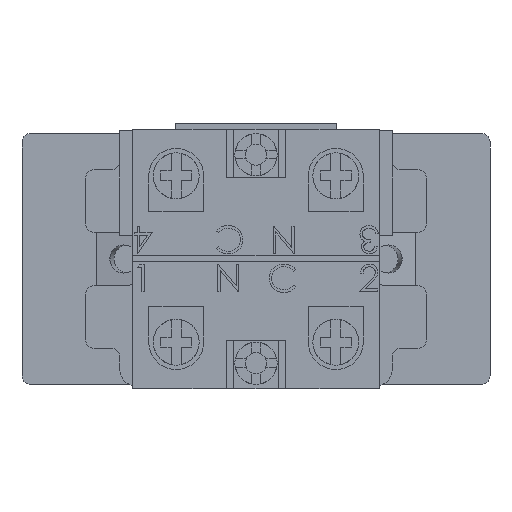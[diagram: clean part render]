
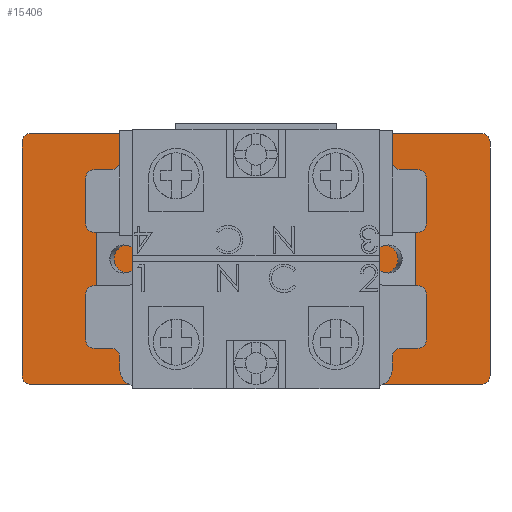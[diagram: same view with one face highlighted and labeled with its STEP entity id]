
A CAD part, front view. The second image highlights one B-rep face of the part: STEP entity #15406.
In plain terms, the highlighted planar face has unit normal (0, -1, 0).
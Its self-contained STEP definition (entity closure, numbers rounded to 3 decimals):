
#313 = AXIS2_PLACEMENT_3D ( 'NONE', #24561, #24577, #24578 ) ;
#315 = AXIS2_PLACEMENT_3D ( 'NONE', #24558, #24559, #24560 ) ;
#2363 = CARTESIAN_POINT ( 'NONE',  ( 0., 6.35, 0. ) ) ;
#2364 = DIRECTION ( 'NONE',  ( 0., -1., 0. ) ) ;
#2365 = DIRECTION ( 'NONE',  ( 0., 0., -1. ) ) ;
#2713 = CARTESIAN_POINT ( 'NONE',  ( 0., 6.35, 0. ) ) ;
#2714 = DIRECTION ( 'NONE',  ( 0., -1., 0. ) ) ;
#2715 = DIRECTION ( 'NONE',  ( 0., 0., -1. ) ) ;
#2716 = CARTESIAN_POINT ( 'NONE',  ( -26.5, 6.35, -13.75 ) ) ;
#2717 = DIRECTION ( 'NONE',  ( 0., -1., 0. ) ) ;
#2718 = DIRECTION ( 'NONE',  ( 0., 0., -1. ) ) ;
#2720 = LINE ( 'NONE', #2721, #3011 ) ;
#2721 = CARTESIAN_POINT ( 'NONE',  ( -27.5, 6.35, 14.75 ) ) ;
#2722 = DIRECTION ( 'NONE',  ( 0., 0., 1. ) ) ;
#2790 = CARTESIAN_POINT ( 'NONE',  ( 0., 6.35, 12.9 ) ) ;
#2794 = CARTESIAN_POINT ( 'NONE',  ( 0., 6.35, -12.9 ) ) ;
#2921 = AXIS2_PLACEMENT_3D ( 'NONE', #2363, #2364, #2365 ) ;
#2971 = AXIS2_PLACEMENT_3D ( 'NONE', #2713, #2714, #2715 ) ;
#3009 = AXIS2_PLACEMENT_3D ( 'NONE', #2716, #2717, #2718 ) ;
#3011 = VECTOR ( 'NONE', #2722, 1000. ) ;
#3474 = FACE_BOUND ( 'NONE', #20298, .T. ) ;
#3515 = AXIS2_PLACEMENT_3D ( 'NONE', #24728, #24729, #24730 ) ;
#3567 = FACE_OUTER_BOUND ( 'NONE', #20297, .T. ) ;
#4229 = CARTESIAN_POINT ( 'NONE',  ( -26.5, 6.35, 14.75 ) ) ;
#4230 = CARTESIAN_POINT ( 'NONE',  ( 26.5, 6.35, 14.75 ) ) ;
#4231 = CARTESIAN_POINT ( 'NONE',  ( 27.5, 6.35, 13.75 ) ) ;
#4232 = CARTESIAN_POINT ( 'NONE',  ( 27.5, 6.35, -13.75 ) ) ;
#4233 = CARTESIAN_POINT ( 'NONE',  ( 26.5, 6.35, -14.75 ) ) ;
#4234 = CARTESIAN_POINT ( 'NONE',  ( -26.5, 6.35, -14.75 ) ) ;
#4235 = CARTESIAN_POINT ( 'NONE',  ( -27.5, 6.35, 13.75 ) ) ;
#4236 = CARTESIAN_POINT ( 'NONE',  ( -27.5, 6.35, -13.75 ) ) ;
#5266 = EDGE_CURVE ( 'NONE', #16450, #16449, #23558, .T. ) ;
#5273 = VECTOR ( 'NONE', #24588, 1000. ) ;
#5274 = VECTOR ( 'NONE', #24585, 1000. ) ;
#5275 = AXIS2_PLACEMENT_3D ( 'NONE', #24579, #24589, #24590 ) ;
#5277 = VECTOR ( 'NONE', #24582, 1000. ) ;
#5409 = EDGE_CURVE ( 'NONE', #16448, #16447, #23559, .T. ) ;
#5413 = EDGE_CURVE ( 'NONE', #16446, #16447, #24580, .T. ) ;
#5456 = EDGE_CURVE ( 'NONE', #16448, #16449, #24583, .T. ) ;
#5570 = EDGE_CURVE ( 'NONE', #16450, #16451, #24586, .T. ) ;
#5645 = EDGE_CURVE ( 'NONE', #16446, #16452, #23560, .T. ) ;
#15406 = ADVANCED_FACE ( 'NONE', ( #3567, #3474 ), #24727, .T. ) ;
#15840 = EDGE_CURVE ( 'NONE', #16268, #16264, #23604, .T. ) ;
#15929 = EDGE_CURVE ( 'NONE', #16264, #16268, #23628, .T. ) ;
#15930 = EDGE_CURVE ( 'NONE', #16453, #16451, #23629, .T. ) ;
#15931 = EDGE_CURVE ( 'NONE', #16453, #16452, #2720, .T. ) ;
#16264 = VERTEX_POINT ( 'NONE', #2790 ) ;
#16268 = VERTEX_POINT ( 'NONE', #2794 ) ;
#16446 = VERTEX_POINT ( 'NONE', #4229 ) ;
#16447 = VERTEX_POINT ( 'NONE', #4230 ) ;
#16448 = VERTEX_POINT ( 'NONE', #4231 ) ;
#16449 = VERTEX_POINT ( 'NONE', #4232 ) ;
#16450 = VERTEX_POINT ( 'NONE', #4233 ) ;
#16451 = VERTEX_POINT ( 'NONE', #4234 ) ;
#16452 = VERTEX_POINT ( 'NONE', #4235 ) ;
#16453 = VERTEX_POINT ( 'NONE', #4236 ) ;
#16800 = ORIENTED_EDGE ( 'NONE', *, *, #15931, .F. ) ;
#16801 = ORIENTED_EDGE ( 'NONE', *, *, #5570, .F. ) ;
#16802 = ORIENTED_EDGE ( 'NONE', *, *, #15930, .T. ) ;
#16803 = ORIENTED_EDGE ( 'NONE', *, *, #5266, .T. ) ;
#16804 = ORIENTED_EDGE ( 'NONE', *, *, #5456, .F. ) ;
#16805 = ORIENTED_EDGE ( 'NONE', *, *, #5409, .T. ) ;
#16806 = ORIENTED_EDGE ( 'NONE', *, *, #5413, .F. ) ;
#16807 = ORIENTED_EDGE ( 'NONE', *, *, #5645, .T. ) ;
#16809 = ORIENTED_EDGE ( 'NONE', *, *, #15929, .F. ) ;
#16810 = ORIENTED_EDGE ( 'NONE', *, *, #15840, .F. ) ;
#20297 = EDGE_LOOP ( 'NONE', ( #16800, #16802, #16801, #16803, #16804, #16805, #16806, #16807 ) ) ;
#20298 = EDGE_LOOP ( 'NONE', ( #16810, #16809 ) ) ;
#23558 = CIRCLE ( 'NONE', #315, 1. ) ;
#23559 = CIRCLE ( 'NONE', #313, 1. ) ;
#23560 = CIRCLE ( 'NONE', #5275, 1. ) ;
#23604 = CIRCLE ( 'NONE', #2921, 12.9 ) ;
#23628 = CIRCLE ( 'NONE', #2971, 12.9 ) ;
#23629 = CIRCLE ( 'NONE', #3009, 1. ) ;
#24558 = CARTESIAN_POINT ( 'NONE',  ( 26.5, 6.35, -13.75 ) ) ;
#24559 = DIRECTION ( 'NONE',  ( 0., -1., 0. ) ) ;
#24560 = DIRECTION ( 'NONE',  ( 0., 0., -1. ) ) ;
#24561 = CARTESIAN_POINT ( 'NONE',  ( 26.5, 6.35, 13.75 ) ) ;
#24577 = DIRECTION ( 'NONE',  ( 0., -1., 0. ) ) ;
#24578 = DIRECTION ( 'NONE',  ( 0., 0., -1. ) ) ;
#24579 = CARTESIAN_POINT ( 'NONE',  ( -26.5, 6.35, 13.75 ) ) ;
#24580 = LINE ( 'NONE', #24581, #5277 ) ;
#24581 = CARTESIAN_POINT ( 'NONE',  ( -27.5, 6.35, 14.75 ) ) ;
#24582 = DIRECTION ( 'NONE',  ( 1., 0., 0. ) ) ;
#24583 = LINE ( 'NONE', #24584, #5274 ) ;
#24584 = CARTESIAN_POINT ( 'NONE',  ( 27.5, 6.35, 14.75 ) ) ;
#24585 = DIRECTION ( 'NONE',  ( 0., 0., -1. ) ) ;
#24586 = LINE ( 'NONE', #24587, #5273 ) ;
#24587 = CARTESIAN_POINT ( 'NONE',  ( -27.5, 6.35, -14.75 ) ) ;
#24588 = DIRECTION ( 'NONE',  ( -1., 0., 0. ) ) ;
#24589 = DIRECTION ( 'NONE',  ( 0., -1., 0. ) ) ;
#24590 = DIRECTION ( 'NONE',  ( 0., 0., -1. ) ) ;
#24727 = PLANE ( 'NONE',  #3515 ) ;
#24728 = CARTESIAN_POINT ( 'NONE',  ( 0., 6.35, 0. ) ) ;
#24729 = DIRECTION ( 'NONE',  ( 0., -1., 0. ) ) ;
#24730 = DIRECTION ( 'NONE',  ( 0., 0., -1. ) ) ;
